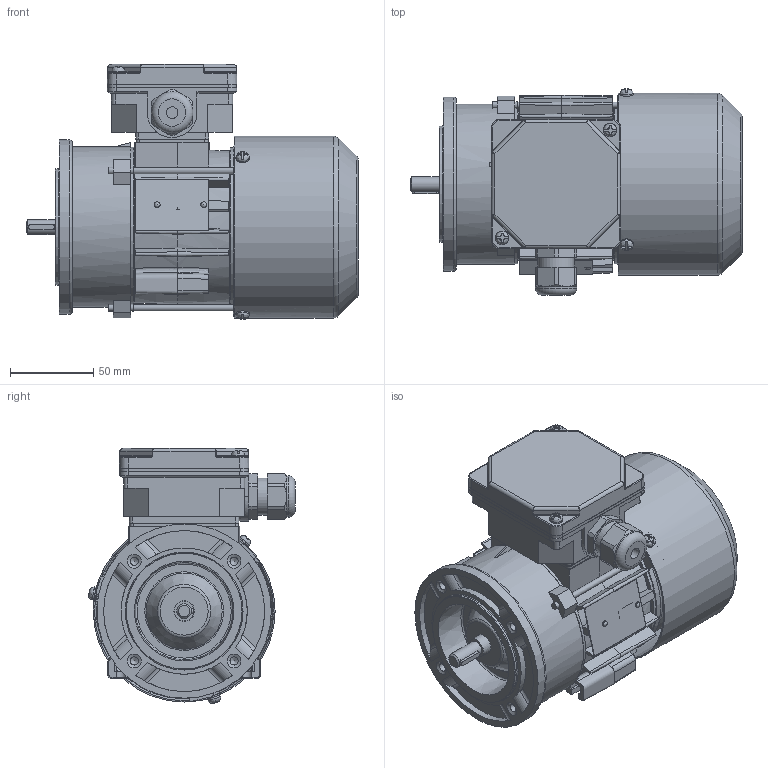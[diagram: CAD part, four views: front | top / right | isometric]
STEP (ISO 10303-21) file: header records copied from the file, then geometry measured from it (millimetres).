
FILE_DESCRIPTION( ( 'Unknown' ), '1' );
FILE_NAME( 'G:/Poczta Tk-1/STP/w.m.56/Sh56/SKh56-C1.stp', 'Unknown', ( 'K. Szlosek' ), ( 'BESEL S.A.' ), 'PSStep 17.0.49', 'Unknown', ' ' );
FILE_SCHEMA( ( 'AUTOMOTIVE_DESIGN { 1 0 10303 214 1 1 1 1 }' ) );
Length unit declared in the file: millimetre
Products named in the file (28): Assem1; K4-2320 Uszczelka nr 1 Sh71,80; K3-2193 Tarcza łożyskowa P Sg56-2..; K2-0860 Pokrywka skrzynki zaciskowej; Wpust A3x3x16; K3-2977 Osłona przewietrznika Sg56; K4-2820 Uszczelka nr 2 Sh71,80; Wkręt samogwintujący M4x8; Wkręt samogwintujący M4x16; K2-0879 Przewietrznik Sg56; Nitokołek A 2x6; K3-9987 kadłub ze stojanem Sh56-C; K3-9990 wał Sh56-C; K1-0529 Tarcza kołnierzowa B14_1 SKg56-..1; K2-0859 Podstawa skrzynki 6-cio zaciskowej; Śruba ściągająca E_M4x85; Tabliczka znamionowa 32x44; Łożysko 6201; Dławnica M20x1,5
Assembly tree (43 placements, depth 2):
  Assem1
    K4-2320 Uszczelka nr 1 Sh71,80
    K3-2193 Tarcza łożyskowa P Sg56-2..
    K2-0860 Pokrywka skrzynki zaciskowej
    Wpust A3x3x16
    K3-2977 Osłona przewietrznika Sg56
    K4-2820 Uszczelka nr 2 Sh71,80
    Wkręt samogwintujący M4x8  x3
    Wkręt samogwintujący M4x16  x2
    K2-0879 Przewietrznik Sg56
    Nitokołek A 2x6  x2
    K3-9987 kadłub ze stojanem Sh56-C
    K3-9990 wał Sh56-C
    K1-0529 Tarcza kołnierzowa B14_1 SKg56-..1
    K2-0859 Podstawa skrzynki 6-cio zaciskowej
    Śruba ściągająca E_M4x85  x3
    Tabliczka znamionowa 32x44
    Łożysko 6201  x2
    Łożysko 6201  x2
    Łożysko 6201  x2
    Łożysko 6201  x2
    Łożysko 6201  x2
    Łożysko 6201  x2
    Łożysko 6201  x2
    Łożysko 6201  x2
    Łożysko 6201  x2
    Łożysko 6201  x2
    Dławnica M20x1,5
Bounding box: 200 x 124.54 x 153.72 mm (x, y, z)
Volume: 443293.1 mm3; surface area: 307545.8 mm2
Topology: 43 solids, 59 shells, 1732 faces, 4649 edges, 2987 vertices
Faces by surface type: plane 885, cylinder 505, torus 124, cone 108, bspline 76, sphere 34
Full cylindrical faces by diameter (mm): 2 x2, 2.4 x2, 3.242 x3, 3.7 x10, 4 x8, 4.5 x4, 4.8 x4, 4.917 x4, 5 x4, 7 x4, 8 x6, 9 x1, 10.9 x1, 11 x1, 11.5 x1, 11.8 x2, 12 x4, 12.4 x2, 15.5 x1, 16 x1, 16.1 x1, 17 x2, 18.376 x1, 18.38 x1, 18.52 x4, 20 x1, 22.3 x1, 24 x2, 25 x1, 25.48 x4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
Entity records: 72927 total; most frequent: CARTESIAN_POINT 21368, DIRECTION 7989, ORIENTED_EDGE 7904, EDGE_CURVE 3952, AXIS2_PLACEMENT_3D 2976, VERTEX_POINT 2676, LINE 2037, VECTOR 2037
